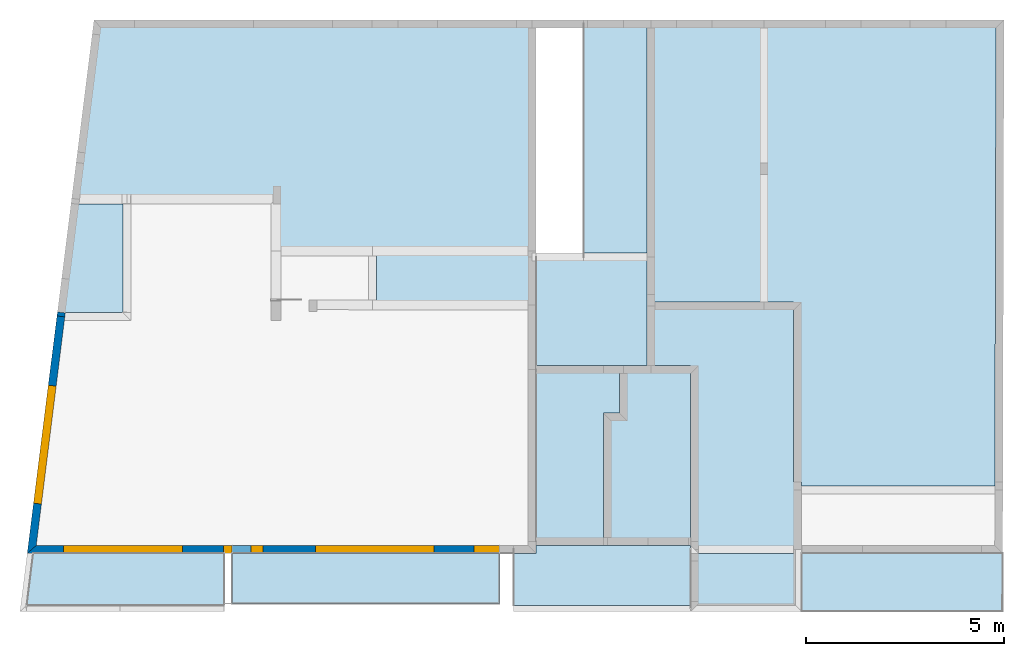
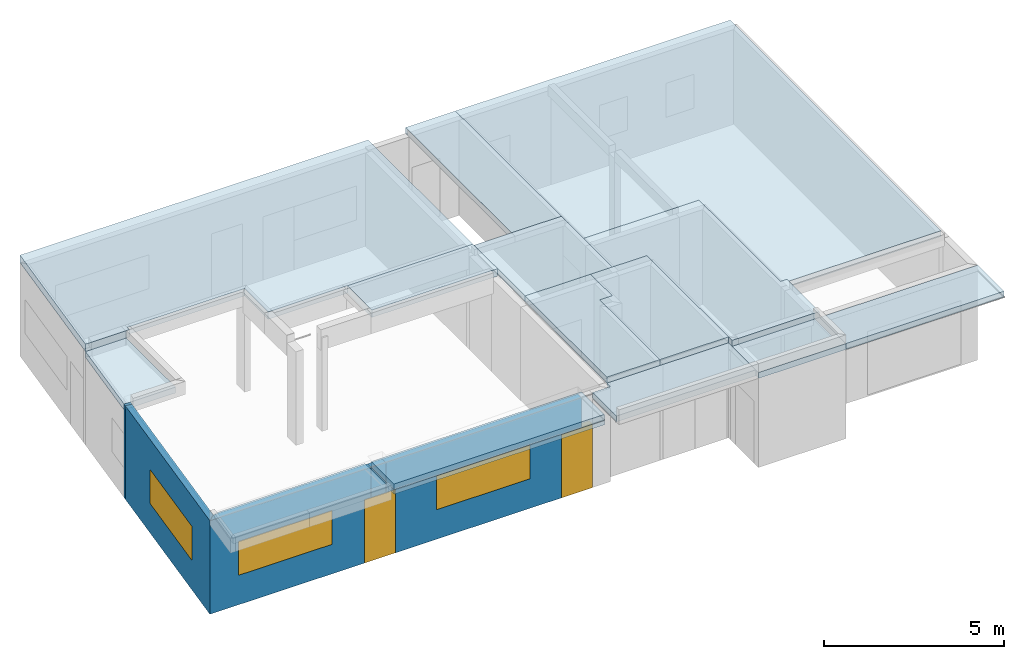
# One storey, part 13 of 17: 15 slabs, 5 walls, 3 windows, 2 doors, 5 openings.
"""IFC2X3 building model written with IfcOpenShell, lengths in metres."""

from ifc_helpers import new_model, si_unit, direction, frame, origin_with_axes, origin_2d, place, context, subcontext, project, spatial, polyline, rectangle, outline, extrude, faceted_brep, material, layer, layer_set, layer_usage, type_object, element, fill, save


model = new_model("IFC2X3")

# Units and contexts
model_context = context("Model", 3, precision=0.0001, world=origin_with_axes(), true_north=direction((0.0, 1.0)))
plan_context = context("Plan", 2, precision=0.0001, world=origin_with_axes(), true_north=direction((0.0, 1.0)))
body_context = subcontext(model_context, "Body", "Model", "MODEL_VIEW")
ifc_project = project(units=[si_unit("MASSUNIT", "GRAM", prefix="KILO"), si_unit("AREAUNIT", "SQUARE_METRE"), si_unit("LENGTHUNIT", "METRE"), si_unit("VOLUMEUNIT", "CUBIC_METRE")], contexts=[plan_context, model_context])

# Site, building, storey
site_placement = place(None, origin_with_axes())
site = spatial("IfcSite", under=ifc_project, at=site_placement, Name="$", CompositionType="ELEMENT")
building_placement = place(site_placement, origin_with_axes())
building = spatial("IfcBuilding", under=site, at=building_placement, Name="Classeur ENS Ensemble", CompositionType="ELEMENT")
storey_placement = place(building_placement, frame((-20.30778888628, -1.812671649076, 0.0), z_axis=(0.0, 0.0, 1.0), x_axis=(1.0, 0.0, 0.0)))
storey = spatial("IfcBuildingStorey", under=building, at=storey_placement, Name="001 RdC", CompositionType="ELEMENT", Elevation=0.0)

# Slabs
ifc_material_1 = material(Name="Default material")
slab_1_placement = place(storey_placement, frame((38.18329531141, -13.13232835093, 2.900000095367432), z_axis=(0.0, 0.0, 1.0), x_axis=(1.0, 0.0, 0.0)))
element("IfcSlab", 1, at=slab_1_placement, inside=storey, material=ifc_material_1, Name="Dalle BA 20 cm", PredefinedType="FLOOR", context=body_context, shape_type="SweptSolid", held_by="IfcProductRepresentation", body=[
    extrude(outline(polyline([(4.868634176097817, 1.406594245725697), (0.0, 0.0), (0.4066222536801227, -1.407438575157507), (5.278893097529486, 0.0), (5.278893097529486, 0.0), (4.868634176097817, 1.406594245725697)])), frame((0.0, 0.0, 0.0), z_axis=(0.0, 0.0, -1.0), x_axis=(0.9607089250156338, 0.2775578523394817, 0.0)), (0.0, 0.0, -1.0), 0.2000000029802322),
])
slab_2_placement = place(storey_placement, frame((34.2832953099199, -5.327328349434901, 3.099999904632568), z_axis=(0.0, 0.0, 1.0), x_axis=(1.0, 0.0, 0.0)))
element("IfcSlab", 2, at=slab_2_placement, inside=storey, material=ifc_material_1, Name="Dalle BA 25 cm", PredefinedType="FLOOR", context=body_context, shape_type="SweptSolid", held_by="IfcProductRepresentation", body=[
    extrude(outline(polyline([(0.0, 0.0), (0.0, 0.0), (0.0, -3.700000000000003), (4.540000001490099, -3.700000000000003), (4.540000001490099, -3.900000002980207), (4.540000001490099, -3.900000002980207), (6.340000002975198, -3.900000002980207), (6.340000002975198, -1.100000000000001), (6.340000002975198, -1.100000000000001), (1.6, -1.100000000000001), (1.6, 0.0), (1.6, 0.0), (0.0, 0.0)])), frame((0.0, 0.0, 0.0), z_axis=(0.0, 0.0, -1.0), x_axis=(0.0, -1.0, 0.0)), (0.0, 0.0, -1.0), 0.2000000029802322),
])
slab_3_placement = place(storey_placement, frame((33.1832953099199, -11.4673283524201, 3.099999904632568), z_axis=(0.0, 0.0, 1.0), x_axis=(1.0, 0.0, 0.0)))
element("IfcSlab", 3, at=slab_3_placement, inside=storey, material=ifc_material_1, Name="Dalle BA 25 cm", PredefinedType="FLOOR", context=body_context, shape_type="SweptSolid", held_by="IfcProductRepresentation", body=[
    extrude(outline(polyline([(4.555352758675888, -0.1426929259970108), (4.555352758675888, -0.1426929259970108), (4.769392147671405, 1.64453597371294), (4.769392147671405, 1.64453597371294), (0.2616036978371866, 2.184390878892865), (0.0, 0.0), (3.316302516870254, -0.39716197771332), (3.363866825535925, 0.0), (3.363866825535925, 0.0), (4.555352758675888, -0.1426929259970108)])), frame((0.0, 0.0, 0.0), z_axis=(0.0, 0.0, -1.0), x_axis=(0.1189107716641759, 0.9929049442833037, 0.0)), (0.0, 0.0, -1.0), 0.2000000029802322),
])
slab_4_placement = place(storey_placement, frame((19.74471426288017, -2.847328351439, 3.049999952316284), z_axis=(0.0, 0.0, 1.0), x_axis=(1.0, 0.0, 0.0)))
element("IfcSlab", 4, at=slab_4_placement, inside=storey, material=ifc_material_1, Name="Dalle BA 25 cm", PredefinedType="FLOOR", context=body_context, shape_type="SweptSolid", held_by="IfcProductRepresentation", body=[
    extrude(outline(polyline([(6.06187039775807, -11.07147742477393), (0.2819633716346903, -11.79487205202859), (0.2819633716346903, -11.79487205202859), (-0.5333303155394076, -5.28069357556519), (0.7665286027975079, -5.118007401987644), (0.3113798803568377, -1.481379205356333), (0.3113798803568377, -1.481379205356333), (0.3113798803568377, -1.481379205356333), (0.2989610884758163, -1.382153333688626), (0.1749287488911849, -1.397676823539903), (0.1749287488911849, -1.397676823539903), (0.0, 0.0), (4.676199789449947, 0.0), (4.676199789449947, 0.0), (6.06187039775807, -11.07147742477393)])), frame((0.0, 0.0, 0.0), z_axis=(0.0, 0.0, 1.0), x_axis=(0.1241879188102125, 0.9922587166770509, 0.0)), (0.0, 0.0, 1.0), 0.25),
])
slab_5_placement = place(storey_placement, frame((19.40178465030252, -5.5873283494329, 2.849999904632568), z_axis=(0.0, 0.0, 1.0), x_axis=(1.0, 0.0, 0.0)))
element("IfcSlab", 5, at=slab_5_placement, inside=storey, material=ifc_material_1, Name="Dalle BA 20 cm", PredefinedType="FLOOR", context=body_context, shape_type="SweptSolid", held_by="IfcProductRepresentation", body=[
    extrude(outline(polyline([(2.921284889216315, -1.277663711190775), (2.921284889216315, -1.277663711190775), (2.923886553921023, -1.298450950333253), (2.923886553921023, -1.298450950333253), (2.923886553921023, -1.298450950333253), (2.923886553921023, -1.298450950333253), (2.923886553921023, -1.298450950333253), (0.2050976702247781, -1.638725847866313), (0.2050976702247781, -1.638725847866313), (0.2050976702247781, -1.638725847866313), (0.2050976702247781, -1.638725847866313), (0.0, 0.0), (0.0, 0.0), (2.761376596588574, 0.0), (2.761376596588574, 0.0), (2.921284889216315, -1.277663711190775)])), frame((0.0, 0.0, 0.0), z_axis=(0.0, 0.0, 1.0), x_axis=(0.1241879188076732, 0.9922587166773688, 0.0)), (0.0, 0.0, 1.0), 0.2000000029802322),
])
slab_6_placement = place(storey_placement, frame((34.2832953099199, -5.327328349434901, 3.099999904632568), z_axis=(0.0, 0.0, 1.0), x_axis=(1.0, 0.0, 0.0)))
element("IfcSlab", 6, at=slab_6_placement, inside=storey, material=ifc_material_1, Name="Dalle BA 20 cm", PredefinedType="FLOOR", context=body_context, shape_type="SweptSolid", held_by="IfcProductRepresentation", body=[
    extrude(outline(polyline([(7.120000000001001, -2.849999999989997), (7.120000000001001, -2.849999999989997), (7.120000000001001, -2.849999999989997), (7.120000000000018, -8.805726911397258), (7.120000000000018, -8.805726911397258), (-4.640403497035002, -8.775803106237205), (-4.640403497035, -3.900000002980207), (-4.540000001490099, -3.900000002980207), (-4.540000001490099, -3.700000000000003), (0.0, -3.700000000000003), (0.0, -2.84999999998), (0.0, -2.84999999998), (0.0, -2.84999999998), (0.0, 0.0), (0.0, 0.0), (7.120000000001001, 0.0), (7.120000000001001, 0.0), (7.120000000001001, -2.849999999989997)])), frame((0.0, 0.0, 0.0), z_axis=(0.0, 0.0, 1.0), x_axis=(0.0, 1.0, 0.0)), (0.0, 0.0, 1.0), 0.2000000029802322),
])
slab_7_placement = place(storey_placement, frame((32.6832953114, 1.7926716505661, 3.099999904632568), z_axis=(0.0, 0.0, 1.0), x_axis=(1.0, 0.0, 0.0)))
element("IfcSlab", 7, at=slab_7_placement, inside=storey, material=ifc_material_1, Name="Dalle BA 20 cm", PredefinedType="FLOOR", context=body_context, shape_type="SweptSolid", held_by="IfcProductRepresentation", body=[
    extrude(outline(polyline([(0.0, 0.0), (0.0, -1.599999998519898), (5.88381244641, -1.599999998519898), (5.88381244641, 0.0), (5.88381244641, 0.0), (0.0, 0.0)])), frame((0.0, 0.0, 0.0), z_axis=(0.0, 0.0, -1.0), x_axis=(0.0, -1.0, 0.0)), (0.0, 0.0, -1.0), 0.2000000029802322),
])
slab_8_placement = place(storey_placement, frame((31.4832953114, -6.927328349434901, 3.099999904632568), z_axis=(0.0, 0.0, 1.0), x_axis=(1.0, 0.0, 0.0)))
element("IfcSlab", 8, at=slab_8_placement, inside=storey, material=ifc_material_1, Name="Dalle BA 20 cm", PredefinedType="FLOOR", context=body_context, shape_type="SweptSolid", held_by="IfcProductRepresentation", body=[
    extrude(outline(polyline([(1.967146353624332, 1.99257000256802), (1.967146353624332, 1.99257000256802), (0.0, 0.0), (2.018322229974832, -1.992570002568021), (2.018322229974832, -1.992570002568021), (3.985468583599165, -4.440892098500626e-16), (3.985468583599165, -4.440892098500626e-16), (3.985468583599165, -4.440892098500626e-16), (1.967146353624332, 1.99257000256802)])), frame((0.0, 0.0, 0.0), z_axis=(0.0, 0.0, -1.0), x_axis=(0.7025522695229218, 0.7116321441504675, 0.0)), (0.0, 0.0, -1.0), 0.2000000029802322),
])
slab_9_placement = place(storey_placement, frame((31.4832953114, -11.4673283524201, 3.099999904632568), z_axis=(0.0, 0.0, 1.0), x_axis=(1.0, 0.0, 0.0)))
element("IfcSlab", 9, at=slab_9_placement, inside=storey, material=ifc_material_1, Name="Dalle BA 20 cm", PredefinedType="FLOOR", context=body_context, shape_type="SweptSolid", held_by="IfcProductRepresentation", body=[
    extrude(outline(polyline([(3.913029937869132, 0.5037824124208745), (3.745102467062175, 0.1407392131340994), (0.7136917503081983, 1.542933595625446), (0.0, 0.0), (4.120540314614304, -1.905976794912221), (5.002159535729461, -2.220446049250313e-16), (5.002159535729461, -2.220446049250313e-16), (3.913029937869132, 0.5037824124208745)])), frame((0.0, 0.0, 0.0), z_axis=(0.0, 0.0, -1.0), x_axis=(0.4198186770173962, 0.9076079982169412, 0.0)), (0.0, 0.0, -1.0), 0.2000000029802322),
])
slab_10_placement = place(storey_placement, frame((27.4532953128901, -5.395510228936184, 3.3), z_axis=(0.0, 0.0, 1.0), x_axis=(1.0, 0.0, 0.0)))
element("IfcSlab", 10, at=slab_10_placement, inside=storey, material=ifc_material_1, Name="Dalle BA 25 cm", PredefinedType="FLOOR", context=body_context, shape_type="Brep", held_by="IfcProductRepresentation", body=[
    faceted_brep([(0.0, 1.363181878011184, -0.25), (4.030000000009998, 1.204369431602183, -0.25), (0.0, 0.0, -0.25), (4.030000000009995, -0.007174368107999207, 0.0), (0.0, 0.0, 0.0), (0.0, 0.0, -0.25), (4.030000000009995, -0.007174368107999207, -0.25), (4.030000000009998, 1.363181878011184, 0.0), (0.0, 1.363181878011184, 0.0), (4.030000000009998, 1.204369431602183, 0.0), (0.0, 1.363181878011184, 0.0), (4.030000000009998, 1.363181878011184, 0.0), (4.030000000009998, 1.363181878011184, -0.25), (0.0, 1.363181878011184, -0.25), (4.030000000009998, 1.204369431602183, -0.25), (4.030000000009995, -0.007174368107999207, -0.25), (0.0, 0.0, -0.25), (0.0, 0.0, 0.0), (4.030000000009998, 1.204369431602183, 0.0), (0.0, 1.363181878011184, 0.0), (4.030000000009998, 1.204369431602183, 0.0), (4.030000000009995, -0.007174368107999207, 0.0), (4.030000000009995, -0.007174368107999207, -0.25), (4.030000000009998, 1.204369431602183, -0.25), (0.0, 0.0, 0.0), (0.0, 1.363181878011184, 0.0), (0.0, 1.363181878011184, -0.25), (0.0, 0.0, -0.25), (0.0, 0.0, 0.0), (4.030000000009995, -0.007174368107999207, 0.0), (4.030000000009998, 1.204369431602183, 0.0), (4.030000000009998, 1.204369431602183, -0.25), (0.0, 1.363181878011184, -0.25), (4.030000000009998, 1.363181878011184, -0.25), (4.030000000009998, 1.363181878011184, 0.0), (4.030000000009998, 1.204369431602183, 0.0), (4.030000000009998, 1.204369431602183, -0.25), (4.030000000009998, 1.363181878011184, -0.25)], [[[0, 1, 2]], [[3, 4, 5, 6]], [[7, 8, 9]], [[10, 11, 12, 13]], [[14, 15, 16]], [[17, 18, 19]], [[20, 21, 22, 23]], [[24, 25, 26, 27]], [[28, 29, 30]], [[31, 32, 33]], [[34, 35, 36, 37]]]),
])
slab_11_placement = place(storey_placement, frame((30.91343654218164, -12.98232834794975, 2.900000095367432), z_axis=(0.0, 0.0, 1.0), x_axis=(1.0, 0.0, 0.0)))
element("IfcSlab", 11, at=slab_11_placement, inside=storey, material=ifc_material_1, Name="Dalle BA 20 cm", PredefinedType="FLOOR", context=body_context, shape_type="SweptSolid", held_by="IfcProductRepresentation", body=[
    extrude(outline(polyline([(1.708430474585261, -0.119286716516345), (1.616675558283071, -0.07952447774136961), (1.616675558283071, -0.07952447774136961), (3.167402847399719, 3.498917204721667), (3.167402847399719, 3.498917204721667), (1.777315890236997, 4.101315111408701), (0.0, 0.0), (1.206864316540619, -0.5222107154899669), (1.433165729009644, 0.0), (1.433165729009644, 0.0), (1.433165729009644, 0.0), (1.708430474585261, -0.119286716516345)])), frame((0.0, 0.0, 0.0), z_axis=(0.0, 0.0, -1.0), x_axis=(0.3976223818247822, 0.9175491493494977, 0.0)), (0.0, 0.0, -1.0), 0.2000000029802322),
])
slab_12_placement = place(storey_placement, frame((18.6274204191, -12.98232835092, 3.25), z_axis=(0.0, 0.0, 1.0), x_axis=(1.0, 0.0, 0.0)))
element("IfcSlab", 12, at=slab_12_placement, inside=storey, material=ifc_material_1, Name="Dalle BA 20 cm", PredefinedType="FLOOR", context=body_context, shape_type="Brep", held_by="IfcProductRepresentation", body=[
    faceted_brep([(0.1645811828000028, 1.315000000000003, 0.0), (4.985874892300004, 1.77635683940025e-15, 0.0), (4.985874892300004, 1.315000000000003, 0.0), (0.0, 0.0, -0.1899999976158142), (0.1645811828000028, 1.315000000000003, -0.1899999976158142), (4.985874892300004, 1.77635683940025e-15, -0.1899999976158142), (4.985874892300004, 1.77635683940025e-15, 0.0), (0.1645811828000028, 1.315000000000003, 0.0), (0.0, 0.0, 0.0), (0.0, 0.0, 0.0), (0.1645811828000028, 1.315000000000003, 0.0), (0.1645811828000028, 1.315000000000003, -0.1899999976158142), (0.0, 0.0, -0.1899999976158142), (4.985874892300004, 1.315000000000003, -0.1899999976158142), (4.985874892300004, 1.77635683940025e-15, -0.1899999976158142), (0.1645811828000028, 1.315000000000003, -0.1899999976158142), (4.985874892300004, 1.77635683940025e-15, 0.0), (0.0, 0.0, 0.0), (0.0, 0.0, -0.1899999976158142), (4.985874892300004, 1.77635683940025e-15, -0.1899999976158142), (4.985874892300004, 1.315000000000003, 0.0), (4.985874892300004, 1.77635683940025e-15, 0.0), (4.985874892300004, 1.77635683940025e-15, -0.1899999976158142), (4.985874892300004, 1.315000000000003, -0.1899999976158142), (0.1645811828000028, 1.315000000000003, 0.0), (4.985874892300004, 1.315000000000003, 0.0), (4.985874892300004, 1.315000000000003, -0.1899999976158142), (0.1645811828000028, 1.315000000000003, -0.1899999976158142)], [[[0, 1, 2]], [[3, 4, 5]], [[6, 7, 8]], [[9, 10, 11, 12]], [[13, 14, 15]], [[16, 17, 18, 19]], [[20, 21, 22, 23]], [[24, 25, 26, 27]]]),
])
slab_13_placement = place(storey_placement, frame((23.8132953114, -11.66732835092, 3.25), z_axis=(0.0, 0.0, 1.0), x_axis=(1.0, 0.0, 0.0)))
element("IfcSlab", 13, at=slab_13_placement, inside=storey, material=ifc_material_1, Name="Dalle BA 20 cm", PredefinedType="FLOOR", context=body_context, shape_type="Brep", held_by="IfcProductRepresentation", body=[
    faceted_brep([(6.739999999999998, -1.265000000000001, -0.2000000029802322), (0.0, -1.265000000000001, -0.2000000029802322), (0.0, 0.0, -0.2000000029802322), (0.0, 0.0, -0.2000000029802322), (6.739999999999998, 0.0, -0.2000000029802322), (6.739999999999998, -1.265000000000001, -0.2000000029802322), (0.0, 0.0, 0.0), (0.0, -1.265000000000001, 0.0), (6.739999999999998, -1.265000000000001, 0.0), (0.0, -1.265000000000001, 0.0), (0.0, 0.0, 0.0), (0.0, 0.0, -0.2000000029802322), (0.0, -1.265000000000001, -0.2000000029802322), (6.739999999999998, 0.0, 0.0), (6.739999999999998, -1.265000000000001, 0.0), (6.739999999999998, -1.265000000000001, -0.2000000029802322), (6.739999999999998, 0.0, -0.2000000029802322), (6.739999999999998, -1.265000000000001, 0.0), (6.739999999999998, 0.0, 0.0), (0.0, 0.0, 0.0), (6.739999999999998, -1.265000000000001, 0.0), (0.0, -1.265000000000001, 0.0), (0.0, -1.265000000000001, -0.2000000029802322), (6.739999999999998, -1.265000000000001, -0.2000000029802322), (0.0, 0.0, 0.0), (6.739999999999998, 0.0, 0.0), (6.739999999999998, 0.0, -0.2000000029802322), (0.0, 0.0, -0.2000000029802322)], [[[0, 1, 2]], [[3, 4, 5]], [[6, 7, 8]], [[9, 10, 11, 12]], [[13, 14, 15, 16]], [[17, 18, 19]], [[20, 21, 22, 23]], [[24, 25, 26, 27]]]),
])
slab_14_placement = place(storey_placement, frame((23.813296, -12.932328, 3.05), z_axis=(0.0, 0.0, 1.0), x_axis=(1.0, 0.0, 0.0)))
element("IfcSlab", 14, at=slab_14_placement, inside=storey, material=ifc_material_1, Name="isolant sous face 15", PredefinedType="FLOOR", context=body_context, shape_type="Brep", held_by="IfcProductRepresentation", body=[
    faceted_brep([(6.740000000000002, 0.0, 0.0), (0.0, 0.0, 0.0), (0.0, 0.0, -0.1500000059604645), (6.740000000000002, 0.0, -0.1500000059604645), (6.740000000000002, 0.0, -0.1500000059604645), (0.0, 0.0, -0.1500000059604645), (0.0, 1.265000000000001, -0.1500000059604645), (6.740000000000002, 1.265000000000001, -0.1500000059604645), (6.740000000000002, 0.0, -0.1500000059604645), (0.0, 1.265000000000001, -0.1500000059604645), (6.740000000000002, 1.265000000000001, 0.0), (6.740000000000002, 0.0, 0.0), (6.740000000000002, 0.0, -0.1500000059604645), (6.740000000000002, 1.265000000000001, -0.1500000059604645), (0.0, 1.265000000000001, 0.0), (6.740000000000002, 1.265000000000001, 0.0), (6.740000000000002, 1.265000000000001, -0.1500000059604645), (0.0, 1.265000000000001, -0.1500000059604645), (0.0, 1.265000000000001, 0.0), (6.740000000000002, 0.0, 0.0), (6.740000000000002, 1.265000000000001, 0.0), (0.0, 1.265000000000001, 0.0), (0.0, 0.0, 0.0), (6.740000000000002, 0.0, 0.0), (0.0, 0.0, 0.0), (0.0, 1.265000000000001, 0.0), (0.0, 1.265000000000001, -0.1500000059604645), (0.0, 0.0, -0.1500000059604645)], [[[0, 1, 2, 3]], [[4, 5, 6]], [[7, 8, 9]], [[10, 11, 12, 13]], [[14, 15, 16, 17]], [[18, 19, 20]], [[21, 22, 23]], [[24, 25, 26, 27]]]),
])
slab_15_placement = place(storey_placement, frame((35.3832953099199, -11.6673283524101, 3.1), z_axis=(0.0, 0.0, 1.0), x_axis=(1.0, 0.0, 0.0)))
element("IfcSlab", 15, at=slab_15_placement, inside=storey, material=ifc_material_1, Name="Dalle BA 20 cm", PredefinedType="FLOOR", context=body_context, shape_type="Brep", held_by="IfcProductRepresentation", body=[
    faceted_brep([(0.0, 0.0, -0.2000000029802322), (2.800000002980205, 0.0, -0.2000000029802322), (2.800000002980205, -1.465000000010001, -0.2000000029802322), (0.0, 0.0, 0.0), (2.800000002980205, 0.0, 0.0), (2.800000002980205, 0.0, -0.2000000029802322), (0.0, 0.0, -0.2000000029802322), (2.800000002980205, -1.465000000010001, 0.0), (0.0, -1.465000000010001, 0.0), (0.0, -1.465000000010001, -0.2000000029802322), (2.800000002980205, -1.465000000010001, -0.2000000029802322), (2.800000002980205, 0.0, 0.0), (2.800000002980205, -1.465000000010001, 0.0), (2.800000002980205, -1.465000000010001, -0.2000000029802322), (2.800000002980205, 0.0, -0.2000000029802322), (0.0, -1.465000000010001, 0.0), (0.0, 0.0, 0.0), (0.0, 0.0, -0.2000000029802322), (0.0, -1.465000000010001, -0.2000000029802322), (2.800000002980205, -1.465000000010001, 0.0), (2.800000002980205, 0.0, 0.0), (0.0, 0.0, 0.0), (2.800000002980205, -1.465000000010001, -0.2000000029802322), (0.0, -1.465000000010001, -0.2000000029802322), (0.0, 0.0, -0.2000000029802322), (0.0, 0.0, 0.0), (0.0, -1.465000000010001, 0.0), (2.800000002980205, -1.465000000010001, 0.0)], [[[0, 1, 2]], [[3, 4, 5, 6]], [[7, 8, 9, 10]], [[11, 12, 13, 14]], [[15, 16, 17, 18]], [[19, 20, 21]], [[22, 23, 24]], [[25, 26, 27]]]),
])

# Wall, opening, window
ifc_material_2 = material(Name="voile BA 20 cm")
ifc_layer_1 = layer(ifc_material_2, 0.2000000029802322)
ifc_layer_set_1 = layer_set([ifc_layer_1], Name="voile BA 20 cm+")
ifc_layer_usage_1 = layer_usage(ifc_layer_set_1, "AXIS2", "POSITIVE", -0.1000000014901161)
wall_type = type_object("IfcWallType", PredefinedType="STANDARD")
wall_1_placement = place(storey_placement, frame((18.75412719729, -11.56732835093, -0.119999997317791), z_axis=(0.0, 0.0, 1.0), x_axis=(1.0, 0.0, 0.0)))
wall_1 = element("IfcWall", 16, at=wall_1_placement, inside=storey, type_object=wall_type, material=ifc_layer_usage_1, Name="voile BA 20 cm", context=body_context, shape_type="SweptSolid", held_by="IfcProductRepresentation", body=[
    extrude(outline(polyline([(0.1132958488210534, 0.1000000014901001), (0.1132958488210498, 0.1000000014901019), (0.1132958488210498, 0.1000000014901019), (5.059168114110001, 0.1000000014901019), (5.059168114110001, 0.1000000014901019), (5.059168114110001, 0.1000000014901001), (5.059168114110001, -0.1000000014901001), (5.059168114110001, -0.1000000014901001), (5.059168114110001, -0.1000000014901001), (-0.1132958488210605, -0.1000000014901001), (-0.1132958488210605, -0.1000000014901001), (-0.1132958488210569, -0.1000000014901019), (0.1132958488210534, 0.1000000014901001)])), origin_with_axes(), (0.0, 0.0, 1.0), 3.170000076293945),
])
opening_1_placement = place(wall_1_placement, frame((2.302142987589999, 0.1000000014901, 0.999999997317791), z_axis=(0.0, 0.0, 1.0), x_axis=(1.0, 0.0, 0.0)))
opening_1 = element("IfcOpeningElement", 17, at=opening_1_placement, cuts=wall_1, Name="BL 300 x 115", context=body_context, shape_type="SweptSolid", held_by="IfcProductRepresentation", body=[
    extrude(rectangle(XDim=3.0, YDim=1.149999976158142, at=origin_2d()), frame((0.0, 0.0, 0.574999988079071), z_axis=(0.0, -1.0, 0.0), x_axis=(1.0, 0.0, 0.0)), (0.0, 0.0, 1.0), 0.2000000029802),
])
window_1_placement = place(opening_1_placement, origin_with_axes())
window_1 = element("IfcWindow", 18, at=window_1_placement, inside=storey, Name="BL 300 x 115", OverallHeight=1.149999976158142, OverallWidth=3.0, context=body_context, shape_type="SweptSolid", held_by="IfcProductRepresentation", body=[
    extrude(rectangle(XDim=3.0, YDim=1.149999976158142, at=origin_2d()), frame((0.0, 0.0, 0.574999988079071), z_axis=(0.0, -1.0, 0.0), x_axis=(1.0, 0.0, 0.0)), (0.0, 0.0, 1.0), 0.2000000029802),
])
fill(opening_1, window_1)

ifc_material_3 = material(Name="voile BA 20 cm")
ifc_layer_2 = layer(ifc_material_3, 0.2000000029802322)
ifc_layer_set_2 = layer_set([ifc_layer_2], Name="voile BA 20 cm+")
ifc_layer_usage_2 = layer_usage(ifc_layer_set_2, "AXIS2", "POSITIVE", -0.1000000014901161)
wall_2_placement = place(storey_placement, frame((18.75412719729, -11.56732835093, -0.119999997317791), z_axis=(0.0, 0.0, 1.0), x_axis=(0.1241879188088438, 0.9922587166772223, 0.0)))
wall_2 = element("IfcWall", 19, at=wall_2_placement, inside=storey, type_object=wall_type, material=ifc_layer_usage_2, Name="voile BA 20 cm", context=body_context, shape_type="SweptSolid", held_by="IfcProductRepresentation", body=[
    extrude(outline(polyline([(-0.113295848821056, 0.1000000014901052), (-0.1132958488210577, 0.100000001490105), (-0.1132958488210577, 0.100000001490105), (5.925873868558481, 0.1000000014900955), (5.925873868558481, 0.1000000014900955), (5.925873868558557, 0.1000000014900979), (5.925873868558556, -0.1000000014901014), (5.925873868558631, -0.1000000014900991), (5.925873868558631, -0.1000000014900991), (0.1132958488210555, -0.1000000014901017), (0.1132958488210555, -0.1000000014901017), (0.1132958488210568, -0.100000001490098), (-0.113295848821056, 0.1000000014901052)])), origin_with_axes(), (0.0, 0.0, 1.0), 3.170000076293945),
])
opening_2_placement = place(wall_2_placement, frame((2.664465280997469, 0.1000000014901, 0.999999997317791), z_axis=(0.0, 0.0, 1.0), x_axis=(1.0, 0.0, 0.0)))
opening_2 = element("IfcOpeningElement", 20, at=opening_2_placement, cuts=wall_2, Name="BL 300 x 115", context=body_context, shape_type="SweptSolid", held_by="IfcProductRepresentation", body=[
    extrude(rectangle(XDim=3.0, YDim=1.149999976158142, at=origin_2d()), frame((0.0, 0.0, 0.574999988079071), z_axis=(0.0, -1.0, 0.0), x_axis=(1.0, 0.0, 0.0)), (0.0, 0.0, 1.0), 0.2000000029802),
])
window_2_placement = place(opening_2_placement, origin_with_axes())
window_2 = element("IfcWindow", 21, at=window_2_placement, inside=storey, Name="BL 300 x 115", OverallHeight=1.149999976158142, OverallWidth=3.0, context=body_context, shape_type="SweptSolid", held_by="IfcProductRepresentation", body=[
    extrude(rectangle(XDim=3.0, YDim=1.149999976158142, at=origin_2d()), frame((0.0, 0.0, 0.574999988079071), z_axis=(0.0, -1.0, 0.0), x_axis=(1.0, 0.0, 0.0)), (0.0, 0.0, 1.0), 0.2000000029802),
])
fill(opening_2, window_2)

# Wall
ifc_material_4 = material(Name="voile BA 20 cm")
ifc_layer_3 = layer(ifc_material_4, 0.2000000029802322)
ifc_layer_set_3 = layer_set([ifc_layer_3], Name="voile BA 20 cm+")
ifc_layer_usage_3 = layer_usage(ifc_layer_set_3, "AXIS2", "POSITIVE", -0.1000000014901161)
wall_3_placement = place(storey_placement, frame((19.49004914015, -5.687328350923, -0.119999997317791), z_axis=(0.0, 0.0, 1.0), x_axis=(0.1241879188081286, 0.9922587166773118, 0.0)))
element("IfcWall", 22, at=wall_3_placement, inside=storey, type_object=wall_type, material=ifc_layer_usage_3, Name="voile BA 20 cm", context=body_context, shape_type="SweptSolid", held_by="IfcProductRepresentation", body=[
    extrude(outline(polyline([(-2.26034468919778e-15, 0.1000000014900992), (7.353319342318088e-14, 0.1000000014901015), (7.353319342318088e-14, 0.1000000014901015), (0.1007801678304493, 0.1000000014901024), (0.1007801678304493, 0.1000000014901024), (0.1007801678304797, 0.1000000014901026), (0.1007801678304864, -0.1000000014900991), (0.1007801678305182, -0.1000000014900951), (0.1007801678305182, -0.1000000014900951), (-7.133009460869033e-14, -0.1000000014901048), (-7.133009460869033e-14, -0.1000000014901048), (3.582203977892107e-15, -0.1000000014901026), (-2.26034468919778e-15, 0.1000000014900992)])), origin_with_axes(), (0.0, 0.0, 1.0), 3.170000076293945),
])

# Wall, opening, door
ifc_material_5 = material(Name="voile BA 20 cm")
ifc_layer_4 = layer(ifc_material_5, 0.2000000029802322)
ifc_layer_set_4 = layer_set([ifc_layer_4], Name="voile BA 20 cm+")
ifc_layer_usage_4 = layer_usage(ifc_layer_set_4, "AXIS2", "POSITIVE", -0.1000000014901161)
wall_4_placement = place(storey_placement, frame((23.8132953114, -11.56732835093, -0.119999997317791), z_axis=(0.0, 0.0, 1.0), x_axis=(1.0, 0.0, 0.0)))
wall_4 = element("IfcWall", 23, at=wall_4_placement, inside=storey, type_object=wall_type, material=ifc_layer_usage_4, Name="voile BA 20 cm", context=body_context, shape_type="SweptSolid", held_by="IfcProductRepresentation", body=[
    extrude(outline(polyline([(0.0, 0.1000000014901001), (0.0, 0.1000000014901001), (0.0, 0.1000000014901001), (0.4696245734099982, 0.1000000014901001), (0.4696245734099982, 0.1000000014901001), (0.4696245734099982, 0.1000000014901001), (0.4696245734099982, -0.1000000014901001), (0.4696245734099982, -0.1000000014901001), (0.4696245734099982, -0.1000000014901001), (0.0, -0.1000000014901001), (0.0, -0.1000000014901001), (0.0, -0.1000000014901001), (0.0, 0.1000000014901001)])), origin_with_axes(), (0.0, 0.0, 1.0), 3.170000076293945),
])
opening_3_placement = place(wall_4_placement, frame((0.2790740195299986, 0.1000000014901, -2.682209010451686e-09), z_axis=(0.0, 0.0, 1.0), x_axis=(1.0, 0.0, 0.0)))
opening_3 = element("IfcOpeningElement", 24, at=opening_3_placement, cuts=wall_4, Name="BL 100 x 215", context=body_context, shape_type="SweptSolid", held_by="IfcProductRepresentation", body=[
    extrude(rectangle(XDim=1.0, YDim=2.150000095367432, at=origin_2d()), frame((0.0, 0.0, 1.075000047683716), z_axis=(0.0, -1.0, 0.0), x_axis=(1.0, 0.0, 0.0)), (0.0, 0.0, 1.0), 0.2000000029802),
])
door_1_placement = place(opening_3_placement, origin_with_axes())
door_1 = element("IfcDoor", 25, at=door_1_placement, inside=storey, Name="BL 100 x 215", OverallHeight=2.150000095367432, OverallWidth=1.0, context=body_context, shape_type="SweptSolid", held_by="IfcProductRepresentation", body=[
    extrude(rectangle(XDim=1.0, YDim=2.150000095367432, at=origin_2d()), frame((0.0, 0.0, 1.075000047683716), z_axis=(0.0, -1.0, 0.0), x_axis=(1.0, 0.0, 0.0)), (0.0, 0.0, 1.0), 0.2000000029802),
])
fill(opening_3, door_1)

# Wall, openings, window, door
ifc_material_6 = material(Name="voile BA 20 cm")
ifc_layer_5 = layer(ifc_material_6, 0.2000000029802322)
ifc_layer_set_5 = layer_set([ifc_layer_5], Name="voile BA 20 cm+")
ifc_layer_usage_5 = layer_usage(ifc_layer_set_5, "AXIS2", "POSITIVE", -0.1000000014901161)
wall_5_placement = place(storey_placement, frame((24.28291988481, -11.56732835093, -0.119999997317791), z_axis=(0.0, 0.0, 1.0), x_axis=(1.0, 0.0, 0.0)))
wall_5 = element("IfcWall", 26, at=wall_5_placement, inside=storey, type_object=wall_type, material=ifc_layer_usage_5, Name="voile BA 20 cm", context=body_context, shape_type="SweptSolid", held_by="IfcProductRepresentation", body=[
    extrude(outline(polyline([(0.0, 0.1000000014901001), (0.0, 0.1000000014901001), (0.0, 0.1000000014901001), (6.27037542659, 0.1000000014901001), (6.27037542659, 0.1000000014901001), (6.27037542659, 0.1000000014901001), (6.27037542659, -0.1000000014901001), (6.27037542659, -0.1000000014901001), (6.27037542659, -0.1000000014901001), (0.0, -0.1000000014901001), (0.0, -0.1000000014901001), (0.0, -0.1000000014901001), (0.0, 0.1000000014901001)])), origin_with_axes(), (0.0, 0.0, 1.0), 3.170000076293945),
])
opening_4_placement = place(wall_5_placement, frame((3.127756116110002, 0.1000000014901, 0.999999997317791), z_axis=(0.0, 0.0, 1.0), x_axis=(1.0, 0.0, 0.0)))
opening_4 = element("IfcOpeningElement", 27, at=opening_4_placement, cuts=wall_5, Name="BL 300 x 115", context=body_context, shape_type="SweptSolid", held_by="IfcProductRepresentation", body=[
    extrude(rectangle(XDim=3.0, YDim=1.149999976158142, at=origin_2d()), frame((0.0, 0.0, 0.574999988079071), z_axis=(0.0, -1.0, 0.0), x_axis=(1.0, 0.0, 0.0)), (0.0, 0.0, 1.0), 0.2000000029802),
])
opening_5_placement = place(wall_5_placement, frame((6.130130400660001, 0.1000000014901, -2.682209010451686e-09), z_axis=(0.0, 0.0, 1.0), x_axis=(1.0, 0.0, 0.0)))
opening_5 = element("IfcOpeningElement", 28, at=opening_5_placement, cuts=wall_5, Name="BL 100 x 215", context=body_context, shape_type="SweptSolid", held_by="IfcProductRepresentation", body=[
    extrude(rectangle(XDim=1.0, YDim=2.150000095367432, at=origin_2d()), frame((0.0, 0.0, 1.075000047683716), z_axis=(0.0, -1.0, 0.0), x_axis=(1.0, 0.0, 0.0)), (0.0, 0.0, 1.0), 0.2000000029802),
])
window_3_placement = place(opening_4_placement, origin_with_axes())
window_3 = element("IfcWindow", 29, at=window_3_placement, inside=storey, Name="BL 300 x 115", OverallHeight=1.149999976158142, OverallWidth=3.0, context=body_context, shape_type="SweptSolid", held_by="IfcProductRepresentation", body=[
    extrude(rectangle(XDim=3.0, YDim=1.149999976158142, at=origin_2d()), frame((0.0, 0.0, 0.574999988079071), z_axis=(0.0, -1.0, 0.0), x_axis=(1.0, 0.0, 0.0)), (0.0, 0.0, 1.0), 0.2000000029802),
])
fill(opening_4, window_3)
door_2_placement = place(opening_5_placement, origin_with_axes())
door_2 = element("IfcDoor", 30, at=door_2_placement, inside=storey, Name="BL 100 x 215", OverallHeight=2.150000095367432, OverallWidth=1.0, context=body_context, shape_type="SweptSolid", held_by="IfcProductRepresentation", body=[
    extrude(rectangle(XDim=1.0, YDim=2.150000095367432, at=origin_2d()), frame((0.0, 0.0, 1.075000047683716), z_axis=(0.0, -1.0, 0.0), x_axis=(1.0, 0.0, 0.0)), (0.0, 0.0, 1.0), 0.2000000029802),
])
fill(opening_5, door_2)

save(model, "model.ifc")
